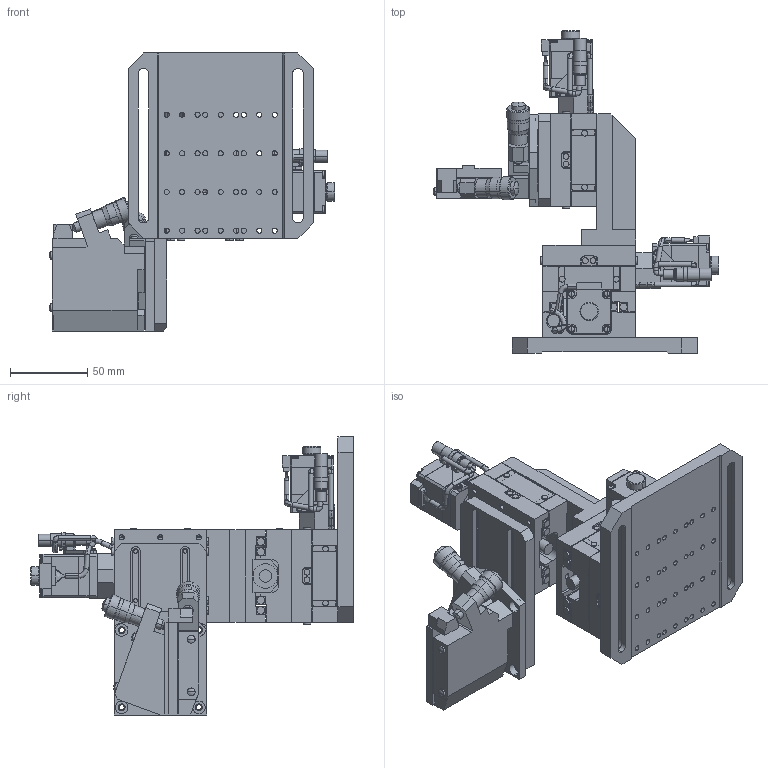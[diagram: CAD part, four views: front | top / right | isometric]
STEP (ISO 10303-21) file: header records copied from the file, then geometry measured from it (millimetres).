
FILE_DESCRIPTION (( 'STEP AP214' ), '1' );
FILE_NAME ('ES3001WB-R.STEP', '2017-03-10T08:22:06', ( '' ), ( '' ), 'SwSTEP 2.0', 'SolidWorks 2017', '' );
FILE_SCHEMA (( 'AUTOMOTIVE_DESIGN' ));
Length unit declared in the file: millimetre
Products named in the file (19): Copy of KXC06020-G-2^Copy (3) of KXC06020-G_000-OST-ES3001WB-R; Copy of KXC06020-G-1^Copy (3) of KXC06020-G_000-OST-ES3001WB-R; Copy of A47-112^000-OST-ES3001WB-R; Copy (2) of KXC06020-G^000-OST-ES3001WB-R; Copy of KXC06020-G-2^Copy (2) of KXC06020-G_000-OST-ES3001WB-R; Copy of KXC06020-G-1^Copy (2) of KXC06020-G_000-OST-ES3001WB-R; Copy of KXC06020-G^000-OST-ES3001WB-R; Copy of KXC06020-G-2^Copy of KXC06020-G_000-OST-ES3001WB-R; Copy of KXC06020-G-1^Copy of KXC06020-G_000-OST-ES3001WB-R; Copy of A24-1^000-OST-ES3001WB-R; Copy of B51-60RN-3^Copy of B51-60RN_000-OST-ES3001WB-R; ES3001WB-R; Copy of B51-60RN-5^Copy of B51-60RN_000-OST-ES3001WB-R; Copy of B51-60RN-4^Copy of B51-60RN_000-OST-ES3001WB-R; Copy of B51-60RN-2^Copy of B51-60RN_000-OST-ES3001WB-R; Copy of B51-60RN^000-OST-ES3001WB-R; Copy of B51-60RN-1^Copy of B51-60RN_000-OST-ES3001WB-R; Copy of E02-2^000-OST-ES3001WB-R; Copy (3) of KXC06020-G^000-OST-ES3001WB-R
Assembly tree (18 placements, depth 3):
  ES3001WB-R
    Copy of A24-1^000-OST-ES3001WB-R
    Copy of KXC06020-G^000-OST-ES3001WB-R
      Copy of KXC06020-G-1^Copy of KXC06020-G_000-OST-ES3001WB-R
      Copy of KXC06020-G-2^Copy of KXC06020-G_000-OST-ES3001WB-R
    Copy (2) of KXC06020-G^000-OST-ES3001WB-R
      Copy of KXC06020-G-1^Copy (2) of KXC06020-G_000-OST-ES3001WB-R
      Copy of KXC06020-G-2^Copy (2) of KXC06020-G_000-OST-ES3001WB-R
    Copy of A47-112^000-OST-ES3001WB-R
    Copy (3) of KXC06020-G^000-OST-ES3001WB-R
      Copy of KXC06020-G-1^Copy (3) of KXC06020-G_000-OST-ES3001WB-R
      Copy of KXC06020-G-2^Copy (3) of KXC06020-G_000-OST-ES3001WB-R
    Copy of E02-2^000-OST-ES3001WB-R
    Copy of B51-60RN^000-OST-ES3001WB-R
      Copy of B51-60RN-1^Copy of B51-60RN_000-OST-ES3001WB-R
      Copy of B51-60RN-2^Copy of B51-60RN_000-OST-ES3001WB-R
      Copy of B51-60RN-4^Copy of B51-60RN_000-OST-ES3001WB-R
      Copy of B51-60RN-5^Copy of B51-60RN_000-OST-ES3001WB-R
      Copy of B51-60RN-3^Copy of B51-60RN_000-OST-ES3001WB-R
Bounding box: 185.15 x 209 x 180 mm (x, y, z)
Volume: 727330.4 mm3; surface area: 244421.5 mm2
Topology: 14 solids, 14 shells, 2121 faces, 5801 edges, 3727 vertices
Faces by surface type: plane 1157, cylinder 698, bspline 160, cone 94, sphere 12
Entity records: 71711 total; most frequent: CARTESIAN_POINT 16410, ORIENTED_EDGE 11468, DIRECTION 11430, EDGE_CURVE 5734, AXIS2_PLACEMENT_3D 3867, VERTEX_POINT 3721, LINE 3696, VECTOR 3696
